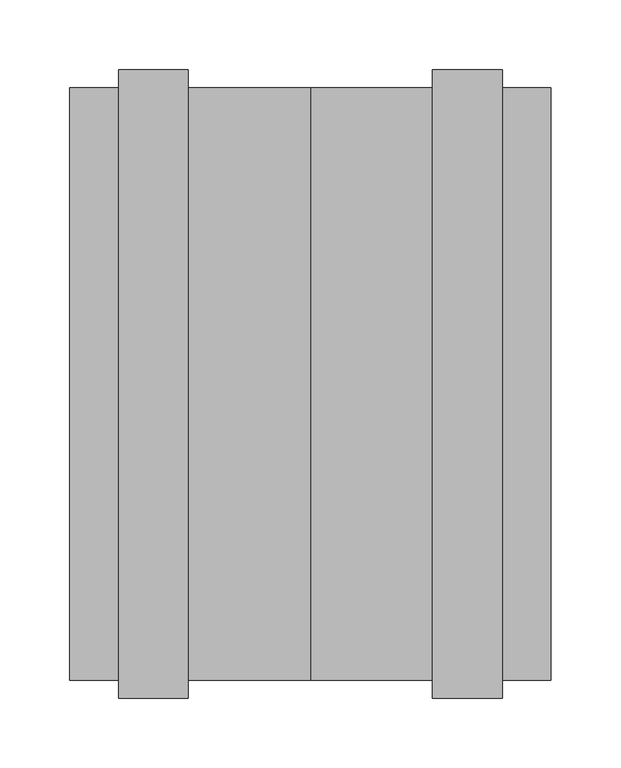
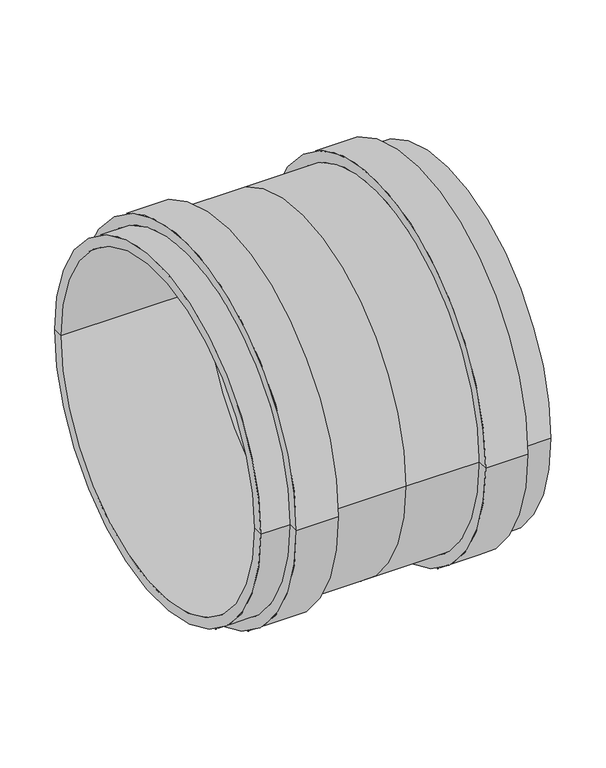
"""IFC4 building model written with IfcOpenShell, lengths in millimetres: pipe fitting geometry, OSMA_KG2000_PPKGMM : Spojka dvouhrdlá."""

from ifc_helpers import new_model, si_unit, frame, origin, place, context, project, spatial, polyline, circle_curve, source, transform, mapped, element, save
from ifc_brep_helpers import plane_surface, cylinder_surface, revolved_surface, advanced_brep


def pipe_fitting_13f16552(model_context):
    return source(origin(), model_context, "Body", "AdvancedBrep", [
        advanced_brep(
        [(-172.5, -200.0, 0.0), (-172.5, 200.0, 0.0), (-172.5, 212.3, 0.0), (-172.5, -212.3, 0.0), (-87.5, -225.0, 0.0), (-87.5, 225.0, 0.0), (-87.5, 212.3, 0.0), (-87.5, -212.3, 0.0), (-137.5, -225.0, 0.0), (-137.5, 225.0, 0.0), (-137.5, -212.3, 0.0), (-137.5, 212.3, 0.0), (0.0, 212.3, 0.0), (0.0, -212.3, 0.0), (137.5, -225.0, 0.0), (137.5, 225.0, 0.0), (137.5, 212.3, 0.0), (137.5, -212.3, 0.0), (87.5, -225.0, 0.0), (87.5, 225.0, 0.0), (87.5, -212.3, 0.0), (87.5, 212.3, 0.0), (172.5, 212.3, 0.0), (172.5, -212.3, 0.0), (172.5, 200.0, 0.0), (172.5, -200.0, 0.0), (0.0, -200.0, 0.0), (0.0, 200.0, 0.0)],
        [
            (0, 1, circle_curve(frame((-172.5, 0.0, 0.0), z_axis=(1.0, 0.0, 0.0), x_axis=(0.0, 1.0, 0.0)), 200.0)),
            (1, 2),
            (2, 3, circle_curve(frame((-172.5, 0.0, 0.0), z_axis=(-1.0, 0.0, 0.0), x_axis=(0.0, 1.0, 0.0)), 212.3)),
            (3, 0),
            (1, 0, circle_curve(frame((-172.5, 0.0, 0.0), z_axis=(1.0, 0.0, 0.0), x_axis=(0.0, 1.0, 0.0)), 200.0)),
            (3, 2, circle_curve(frame((-172.5, 0.0, 0.0), z_axis=(-1.0, 0.0, 0.0), x_axis=(0.0, 1.0, 0.0)), 212.3)),
            (4, 5, circle_curve(frame((-87.5, 0.0, 0.0), z_axis=(1.0, 0.0, 0.0), x_axis=(0.0, 1.0, 0.0)), 225.0)),
            (5, 6),
            (6, 7, circle_curve(frame((-87.5, 0.0, 0.0), z_axis=(-1.0, 0.0, 0.0), x_axis=(0.0, 1.0, 0.0)), 212.3)),
            (7, 4),
            (5, 4, circle_curve(frame((-87.5, 0.0, 0.0), z_axis=(1.0, 0.0, 0.0), x_axis=(0.0, 1.0, 0.0)), 225.0)),
            (7, 6, circle_curve(frame((-87.5, 0.0, 0.0), z_axis=(-1.0, 0.0, 0.0), x_axis=(0.0, 1.0, 0.0)), 212.3)),
            (4, 8),
            (8, 9, circle_curve(frame((-137.5, 0.0, 0.0), z_axis=(1.0, 0.0, 0.0), x_axis=(0.0, 1.0, 0.0)), 225.0)),
            (9, 5),
            (9, 8, circle_curve(frame((-137.5, 0.0, 0.0), z_axis=(1.0, 0.0, 0.0), x_axis=(0.0, 1.0, 0.0)), 225.0)),
            (8, 10),
            (10, 11, circle_curve(frame((-137.5, 0.0, 0.0), z_axis=(1.0, 0.0, 0.0), x_axis=(0.0, 1.0, 0.0)), 212.3)),
            (11, 9),
            (11, 10, circle_curve(frame((-137.5, 0.0, 0.0), z_axis=(1.0, 0.0, 0.0), x_axis=(0.0, 1.0, 0.0)), 212.3)),
            (2, 11),
            (10, 3),
            (6, 12),
            (12, 13, circle_curve(frame((0.0, 0.0, 0.0), z_axis=(-1.0, 0.0, 0.0), x_axis=(0.0, 1.0, 0.0)), 212.3)),
            (13, 7),
            (13, 12, circle_curve(frame((0.0, 0.0, 0.0), z_axis=(-1.0, 0.0, 0.0), x_axis=(0.0, 1.0, 0.0)), 212.3)),
            (14, 15, circle_curve(frame((137.5, 0.0, 0.0), z_axis=(1.0, 0.0, 0.0), x_axis=(0.0, 1.0, 0.0)), 225.0)),
            (15, 16),
            (16, 17, circle_curve(frame((137.5, 0.0, 0.0), z_axis=(-1.0, 0.0, 0.0), x_axis=(0.0, 1.0, 0.0)), 212.3)),
            (17, 14),
            (15, 14, circle_curve(frame((137.5, 0.0, 0.0), z_axis=(1.0, 0.0, 0.0), x_axis=(0.0, 1.0, 0.0)), 225.0)),
            (17, 16, circle_curve(frame((137.5, 0.0, 0.0), z_axis=(-1.0, 0.0, 0.0), x_axis=(0.0, 1.0, 0.0)), 212.3)),
            (14, 18),
            (18, 19, circle_curve(frame((87.5, 0.0, 0.0), z_axis=(1.0, 0.0, 0.0), x_axis=(0.0, 1.0, 0.0)), 225.0)),
            (19, 15),
            (19, 18, circle_curve(frame((87.5, 0.0, 0.0), z_axis=(1.0, 0.0, 0.0), x_axis=(0.0, 1.0, 0.0)), 225.0)),
            (18, 20),
            (20, 21, circle_curve(frame((87.5, 0.0, 0.0), z_axis=(1.0, 0.0, 0.0), x_axis=(0.0, 1.0, 0.0)), 212.3)),
            (21, 19),
            (21, 20, circle_curve(frame((87.5, 0.0, 0.0), z_axis=(1.0, 0.0, 0.0), x_axis=(0.0, 1.0, 0.0)), 212.3)),
            (20, 13),
            (12, 21),
            (16, 22),
            (22, 23, circle_curve(frame((172.5, 0.0, 0.0), z_axis=(-1.0, 0.0, 0.0), x_axis=(0.0, 1.0, 0.0)), 212.3)),
            (23, 17),
            (23, 22, circle_curve(frame((172.5, 0.0, 0.0), z_axis=(-1.0, 0.0, 0.0), x_axis=(0.0, 1.0, 0.0)), 212.3)),
            (22, 24),
            (24, 25, circle_curve(frame((172.5, 0.0, 0.0), z_axis=(-1.0, 0.0, 0.0), x_axis=(0.0, 1.0, 0.0)), 200.0)),
            (25, 23),
            (25, 24, circle_curve(frame((172.5, 0.0, 0.0), z_axis=(-1.0, 0.0, 0.0), x_axis=(0.0, 1.0, 0.0)), 200.0)),
            (0, 26),
            (26, 27, circle_curve(frame((0.0, 0.0, 0.0), z_axis=(1.0, 0.0, 0.0), x_axis=(0.0, 1.0, 0.0)), 200.0)),
            (27, 1),
            (27, 26, circle_curve(frame((0.0, 0.0, 0.0), z_axis=(1.0, 0.0, 0.0), x_axis=(0.0, 1.0, 0.0)), 200.0)),
            (24, 27),
            (26, 25),
        ],
        [
            plane_surface(frame((-172.5, 0.0, 0.0), z_axis=(-1.0, 0.0, 0.0), x_axis=(0.0, 1.0, 0.0))),
            plane_surface(frame((-87.5, 0.0, 0.0), z_axis=(1.0, 0.0, 0.0), x_axis=(0.0, 1.0, 0.0))),
            cylinder_surface(frame((373.0, 0.0, 0.0), z_axis=(-1.0, 0.0, 0.0), x_axis=(0.0, 1.0, 0.0)), 225.0),
            plane_surface(frame((-137.5, 0.0, 0.0), z_axis=(-1.0, 0.0, 0.0), x_axis=(0.0, 1.0, 0.0))),
            cylinder_surface(frame((373.0, 0.0, 0.0), z_axis=(-1.0, 0.0, 0.0), x_axis=(0.0, 1.0, 0.0)), 212.3),
            plane_surface(frame((137.5, 0.0, 0.0), z_axis=(1.0, 0.0, 0.0), x_axis=(0.0, 1.0, 0.0))),
            plane_surface(frame((87.5, 0.0, 0.0), z_axis=(-1.0, 0.0, 0.0), x_axis=(0.0, 1.0, 0.0))),
            plane_surface(frame((172.5, 0.0, 0.0), z_axis=(1.0, 0.0, 0.0), x_axis=(0.0, 1.0, 0.0))),
            revolved_surface(polyline([(-172.5, 200.0, 0.0), (0.0, 200.0, 0.0)]), (373.0, 0.0, 0.0), (-1.0, 0.0, 0.0)),
            revolved_surface(polyline([(0.0, 200.0, 0.0), (172.5, 200.0, 0.0)]), (373.0, 0.0, 0.0), (-1.0, 0.0, 0.0)),
        ],
        [
            (0, [[1, 2, 3, 4]]),
            (0, [[-2, 5, -4, 6]]),
            (1, [[7, 8, 9, 10]]),
            (1, [[-8, 11, -10, 12]]),
            (2, [[-7, 13, 14, 15]]),
            (2, [[-11, -15, 16, -13]]),
            (3, [[-14, 17, 18, 19]]),
            (3, [[-16, -19, 20, -17]]),
            (4, [[-3, 21, -18, 22]]),
            (4, [[-6, -22, -20, -21]]),
            (4, [[-9, 23, 24, 25]]),
            (4, [[-12, -25, 26, -23]]),
            (5, [[27, 28, 29, 30]]),
            (5, [[-28, 31, -30, 32]]),
            (2, [[-27, 33, 34, 35]]),
            (2, [[-31, -35, 36, -33]]),
            (6, [[-34, 37, 38, 39]]),
            (6, [[-36, -39, 40, -37]]),
            (4, [[-38, 41, -24, 42]]),
            (4, [[-40, -42, -26, -41]]),
            (4, [[-29, 43, 44, 45]]),
            (4, [[-32, -45, 46, -43]]),
            (7, [[-44, 47, 48, 49]]),
            (7, [[-46, -49, 50, -47]]),
            (8, [[-1, 51, 52, 53]]),
            (8, [[-5, -53, 54, -51]]),
            (9, [[-48, 55, -52, 56]]),
            (9, [[-50, -56, -54, -55]]),
        ],
    ),
    ])


if __name__ == "__main__":
    model = new_model("IFC4")
    model_context = context("Model", 3, world=origin())
    ifc_project = project(units=[si_unit("LENGTHUNIT", "METRE", prefix="MILLI")], contexts=[model_context])
    site = spatial("IfcSite", under=ifc_project)
    building = spatial("IfcBuilding", under=site)
    placement = place(None, origin())
    pipe_fitting_shape = pipe_fitting_13f16552(model_context)
    element("IfcPipeFitting", 1, ObjectType="OSMA_KG2000_PPKGMM : Spojka dvouhrdlá", at=placement, inside=building, context=model_context, shape_type="MappedRepresentation", body=[
        mapped(pipe_fitting_shape, transform((0.0, 0.0, 0.0), x_axis=(1.0, 0.0, 0.0), y_axis=(0.0, 1.0, 0.0), z_axis=(0.0, 0.0, 1.0))),
    ])
    save(model, "model.ifc")
